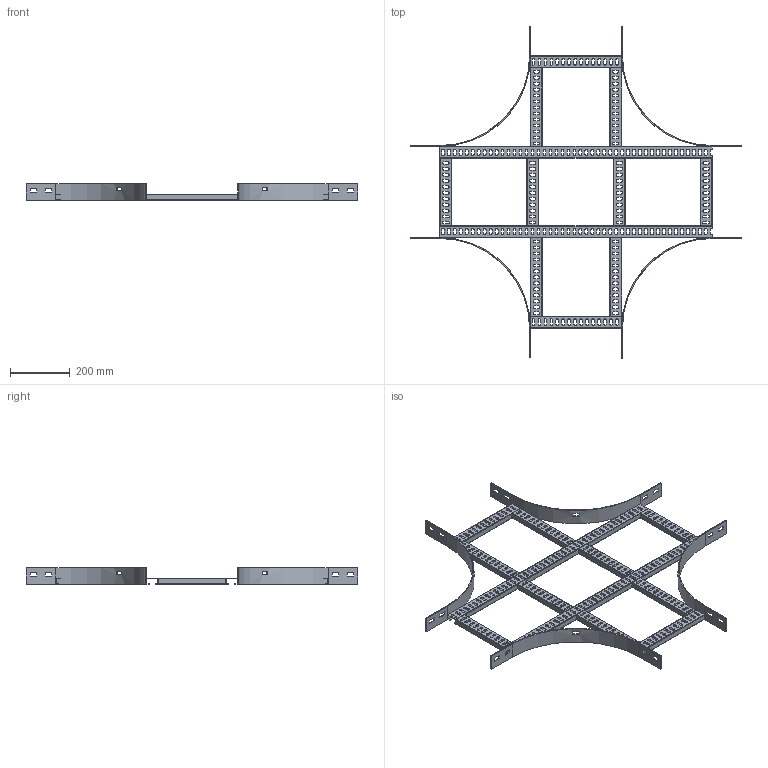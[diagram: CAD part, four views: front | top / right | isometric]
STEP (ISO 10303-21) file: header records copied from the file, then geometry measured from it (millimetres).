
FILE_DESCRIPTION(/* description */ ('','CAx-IF Rec.Pracs.---Representation and Presentation of Product Manufacturing Information (PMI)---4.0---2014-10-13'),/* implementation_level */ '2;1');
FILE_NAME(/* name */ 'Eurostrut_ECO60-300-300_Crossover for Cable Ladder ECL.step',/* time_stamp */ '2026-09-03T13:19:22+02:00',/* author */ (''),/* organization */ (''),/* preprocessor_version */ 'ST-DEVELOPER v20.1',/* originating_system */ 'Autodesk Revit 2027 27.2.0.39',/* authorisation */ '');
FILE_SCHEMA (('AP242_MANAGED_MODEL_BASED_3D_ENGINEERING_MIM_LF { 1 0 10303 442 2 1 4 }'));
Length unit declared in the file: millimetre
Products named in the file (10): TopLevelAssembly; Sweep; Sweep_1; Sweep_2; Sweep_3; Eurostrut_Cable Ladder_Rung_With slots; Eurostrut_Cable Ladder_Rung_With slots_1; Eurostrut_Cable Ladder_Rung Array Straight_Slotted; Eurostrut_Cable Ladder_Rung Array Straight_Slotted_1; Eurostrut_Cable Ladder_Accessory End_54-94-142
Assembly tree (19 placements, depth 2):
  TopLevelAssembly
    Sweep
    Sweep_1
    Eurostrut_Cable Ladder_Rung_With slots  x2
    Eurostrut_Cable Ladder_Rung_With slots_1  x2
    Sweep_2
    Sweep_3
    Eurostrut_Cable Ladder_Rung Array Straight_Slotted
    Eurostrut_Cable Ladder_Rung Array Straight_Slotted_1  x2
    Eurostrut_Cable Ladder_Accessory End_54-94-142  x8
Bounding box: 1111 x 1111 x 54 mm (x, y, z)
Volume: 958581.6 mm3; surface area: 1055631.9 mm2
Topology: 24 solids, 24 shells, 1240 faces, 3576 edges, 2384 vertices
Faces by surface type: plane 748, bspline 436, cylinder 56
Entity records: 31954 total; most frequent: CARTESIAN_POINT 12289, ORIENTED_EDGE 4176, DIRECTION 3686, EDGE_CURVE 2088, LINE 1468, VECTOR 1468, VERTEX_POINT 1392, AXIS2_PLACEMENT_3D 1109
